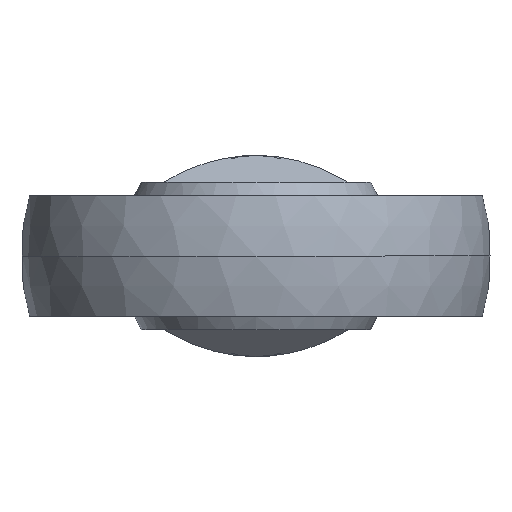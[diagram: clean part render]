
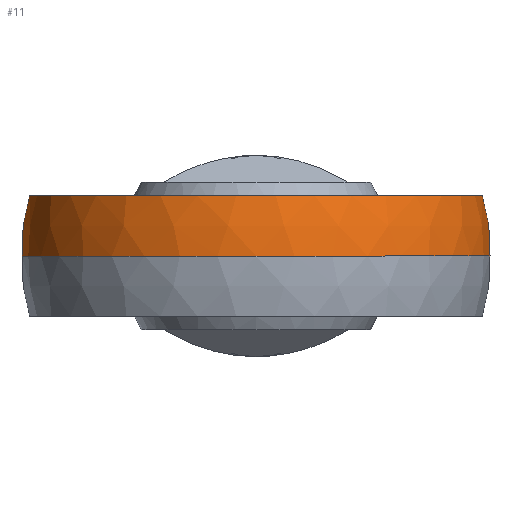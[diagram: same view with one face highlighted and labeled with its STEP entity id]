
A CAD part, left-side view. The second image highlights one B-rep face of the part: STEP entity #11.
In plain terms, the highlighted spherical face has radius 35 mm.
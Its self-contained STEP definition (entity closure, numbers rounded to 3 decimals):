
#8 = ORIENTED_EDGE ( 'NONE', *, *, #9, .F. ) ;
#9 = EDGE_CURVE ( 'NONE', #10, #15, #130, .T. ) ;
#10 = VERTEX_POINT ( 'NONE', #125 ) ;
#11 = ADVANCED_FACE ( 'NONE', ( #124 ), #182, .T. ) ;
#13 = EDGE_LOOP ( 'NONE', ( #1300, #17, #8, #27, #28 ) ) ;
#14 = EDGE_CURVE ( 'NONE', #16, #15, #173, .T. ) ;
#15 = VERTEX_POINT ( 'NONE', #168 ) ;
#16 = VERTEX_POINT ( 'NONE', #167 ) ;
#17 = ORIENTED_EDGE ( 'NONE', *, *, #14, .T. ) ;
#24 = VERTEX_POINT ( 'NONE', #157 ) ;
#26 = EDGE_CURVE ( 'NONE', #33, #24, #206, .T. ) ;
#27 = ORIENTED_EDGE ( 'NONE', *, *, #29, .F. ) ;
#28 = ORIENTED_EDGE ( 'NONE', *, *, #26, .F. ) ;
#29 = EDGE_CURVE ( 'NONE', #24, #10, #202, .T. ) ;
#31 = EDGE_CURVE ( 'NONE', #16, #33, #197, .T. ) ;
#33 = VERTEX_POINT ( 'NONE', #187 ) ;
#124 = FACE_OUTER_BOUND ( 'NONE', #13, .T. ) ;
#125 = CARTESIAN_POINT ( 'NONE',  ( 19.168, -27.868, 9. ) ) ;
#126 = DIRECTION ( 'NONE',  ( 0., 1., 0. ) ) ;
#127 = DIRECTION ( 'NONE',  ( 1., 0., 0. ) ) ;
#128 = CARTESIAN_POINT ( 'NONE',  ( 19.168, 0., 0. ) ) ;
#129 = AXIS2_PLACEMENT_3D ( 'NONE', #128, #127, #126 ) ;
#130 = CIRCLE ( 'NONE', #129, 29.285 ) ;
#152 = CARTESIAN_POINT ( 'NONE',  ( 19.168, 0., 0. ) ) ;
#157 = CARTESIAN_POINT ( 'NONE',  ( 19.168, 27.868, 9. ) ) ;
#167 = CARTESIAN_POINT ( 'NONE',  ( -35., 0., 0. ) ) ;
#168 = CARTESIAN_POINT ( 'NONE',  ( 19.168, -29.285, 0. ) ) ;
#169 = DIRECTION ( 'NONE',  ( 0., -1., 0. ) ) ;
#170 = DIRECTION ( 'NONE',  ( 0., 0., 1. ) ) ;
#171 = CARTESIAN_POINT ( 'NONE',  ( 0., 0., 0. ) ) ;
#172 = AXIS2_PLACEMENT_3D ( 'NONE', #171, #170, #169 ) ;
#173 = CIRCLE ( 'NONE', #172, 35. ) ;
#178 = DIRECTION ( 'NONE',  ( 0., 1., 0. ) ) ;
#179 = DIRECTION ( 'NONE',  ( 0., 0., 1. ) ) ;
#180 = AXIS2_PLACEMENT_3D ( 'NONE', #181, #179, #178 ) ;
#181 = CARTESIAN_POINT ( 'NONE',  ( 0., 0., 0. ) ) ;
#182 = SPHERICAL_SURFACE ( 'NONE', #180, 35. ) ;
#187 = CARTESIAN_POINT ( 'NONE',  ( 19.168, 29.285, 0. ) ) ;
#193 = DIRECTION ( 'NONE',  ( -1., 0., 0. ) ) ;
#194 = DIRECTION ( 'NONE',  ( 0., 0., -1. ) ) ;
#195 = CARTESIAN_POINT ( 'NONE',  ( 0., 0., 0. ) ) ;
#196 = AXIS2_PLACEMENT_3D ( 'NONE', #195, #194, #193 ) ;
#197 = CIRCLE ( 'NONE', #196, 35. ) ;
#198 = DIRECTION ( 'NONE',  ( -1., 0., 0. ) ) ;
#199 = DIRECTION ( 'NONE',  ( 0., 0., 1. ) ) ;
#200 = CARTESIAN_POINT ( 'NONE',  ( 0., 0., 9. ) ) ;
#201 = AXIS2_PLACEMENT_3D ( 'NONE', #200, #199, #198 ) ;
#202 = CIRCLE ( 'NONE', #201, 33.823 ) ;
#203 = DIRECTION ( 'NONE',  ( 0., 1., 0. ) ) ;
#204 = DIRECTION ( 'NONE',  ( 1., 0., 0. ) ) ;
#205 = AXIS2_PLACEMENT_3D ( 'NONE', #152, #204, #203 ) ;
#206 = CIRCLE ( 'NONE', #205, 29.285 ) ;
#1300 = ORIENTED_EDGE ( 'NONE', *, *, #31, .F. ) ;
